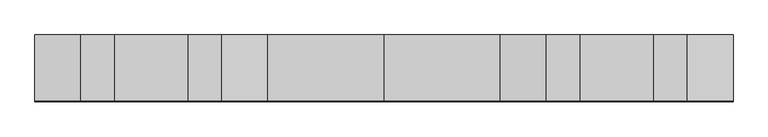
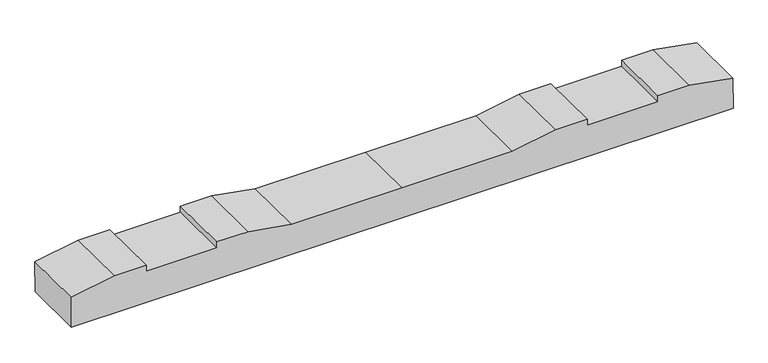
"""IFC4 building model written with IfcOpenShell, lengths in millimetres: proxy geometry, 轨枕-立面角度 : 轨枕-立面角度."""

from ifc_helpers import new_model, si_unit, frame, origin, place, context, project, spatial, polyline, outline, extrude, source, transform, mapped, element, save


def generic_models_b2339178(model_context):
    return source(origin(), model_context, "Body", "SweptSolid", [
        extrude(outline(polyline([(0.0, 0.0), (0.0, -100.0206889), (-137.8834664, -124.4999999), (-237.8834664, -124.4999999), (-237.8834664, -104.4999999), (-461.8834664, -104.4999999), (-461.8834664, -124.4999999), (-561.8834664, -124.4999999), (-699.8834664, -99.9999999), (-1049.8834664, -99.9999999), (-1399.8834664, -99.9999999), (-1537.8834664, -124.4999999), (-1637.8834664, -124.4999999), (-1637.8834664, -104.4999999), (-1861.8834664, -104.4999999), (-1861.8834664, -124.4999999), (-1961.8834664, -124.4999999), (-2099.7669328, -100.0206889), (-2099.7669328, 0.0), (0.0, 0.0)])), frame((-1049.8834664, 99.1492212, -105.3075587), z_axis=(0.0, -0.9999671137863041, 0.00810995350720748), x_axis=(-1.0, 0.0, 0.0)), (0.0, 0.0, 1.0), 200.0),
    ])


if __name__ == "__main__":
    model = new_model("IFC4")
    model_context = context("Model", 3, world=origin())
    ifc_project = project(units=[si_unit("LENGTHUNIT", "METRE", prefix="MILLI")], contexts=[model_context])
    site = spatial("IfcSite", under=ifc_project)
    building = spatial("IfcBuilding", under=site)
    placement = place(None, origin())
    generic_models_shape = generic_models_b2339178(model_context)
    element("IfcBuildingElementProxy", 1, Name="轨枕-立面角度 : 轨枕-立面角度", ObjectType="轨枕-立面角度 : 轨枕-立面角度", at=placement, inside=building, context=model_context, shape_type="MappedRepresentation", body=[
        mapped(generic_models_shape, transform((0.0, 0.0, 0.0), x_axis=(1.0, 0.0, 0.0), y_axis=(0.0, 1.0, 0.0), z_axis=(0.0, 0.0, 1.0))),
    ])
    save(model, "model.ifc")
